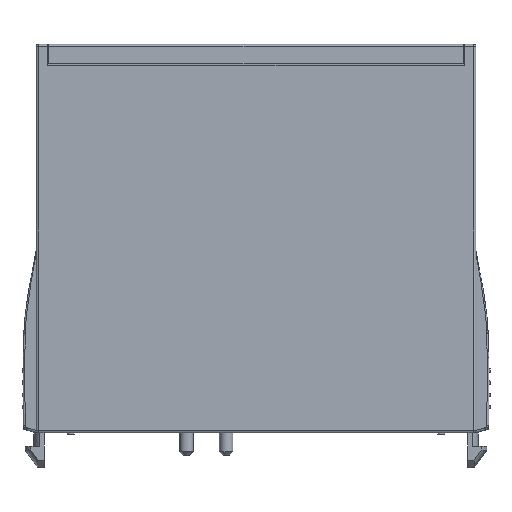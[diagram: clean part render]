
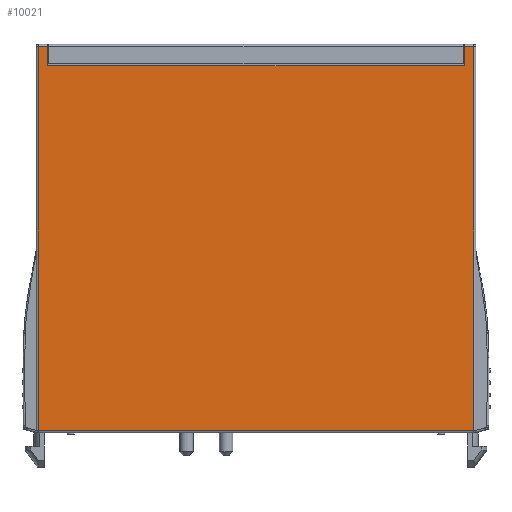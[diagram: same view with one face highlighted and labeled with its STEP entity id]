
A CAD part, front view. The second image highlights one B-rep face of the part: STEP entity #10021.
In plain terms, the highlighted planar face has unit normal (0, -1, 0).
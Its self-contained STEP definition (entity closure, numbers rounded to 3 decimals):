
#725=LINE('',#16059,#1787);
#1060=LINE('',#17298,#2122);
#1108=LINE('',#17440,#2170);
#1109=LINE('',#17444,#2171);
#1110=LINE('',#17446,#2172);
#1111=LINE('',#17448,#2173);
#1112=LINE('',#17449,#2174);
#1113=LINE('',#17450,#2175);
#1787=VECTOR('',#11810,10.);
#2122=VECTOR('',#12421,10.);
#2170=VECTOR('',#12495,10.);
#2171=VECTOR('',#12500,10.);
#2172=VECTOR('',#12501,10.);
#2173=VECTOR('',#12502,10.);
#2174=VECTOR('',#12503,10.);
#2175=VECTOR('',#12504,10.);
#2723=PLANE('',#10665);
#3129=FACE_OUTER_BOUND('',#3733,.T.);
#3733=EDGE_LOOP('',(#8198,#8199,#8200,#8201,#8202,#8203,#8204,#8205));
#4657=VERTEX_POINT('',#16056);
#4658=VERTEX_POINT('',#16058);
#4937=VERTEX_POINT('',#17295);
#4938=VERTEX_POINT('',#17297);
#4985=VERTEX_POINT('',#17439);
#4986=VERTEX_POINT('',#17443);
#4987=VERTEX_POINT('',#17445);
#4988=VERTEX_POINT('',#17447);
#5705=EDGE_CURVE('',#4658,#4657,#725,.F.);
#6115=EDGE_CURVE('',#4937,#4938,#1060,.T.);
#6173=EDGE_CURVE('',#4938,#4985,#1108,.T.);
#6175=EDGE_CURVE('',#4986,#4937,#1109,.T.);
#6176=EDGE_CURVE('',#4987,#4986,#1110,.T.);
#6177=EDGE_CURVE('',#4988,#4987,#1111,.T.);
#6178=EDGE_CURVE('',#4658,#4988,#1112,.T.);
#6179=EDGE_CURVE('',#4985,#4657,#1113,.T.);
#8198=ORIENTED_EDGE('',*,*,#6115,.F.);
#8199=ORIENTED_EDGE('',*,*,#6175,.F.);
#8200=ORIENTED_EDGE('',*,*,#6176,.F.);
#8201=ORIENTED_EDGE('',*,*,#6177,.F.);
#8202=ORIENTED_EDGE('',*,*,#6178,.F.);
#8203=ORIENTED_EDGE('',*,*,#5705,.T.);
#8204=ORIENTED_EDGE('',*,*,#6179,.F.);
#8205=ORIENTED_EDGE('',*,*,#6173,.F.);
#10021=ADVANCED_FACE('',(#3129),#2723,.F.);
#10665=AXIS2_PLACEMENT_3D('',#17442,#12498,#12499);
#11810=DIRECTION('',(0.,0.,-1.));
#12421=DIRECTION('',(-1.,0.,0.));
#12495=DIRECTION('',(0.,0.,1.));
#12498=DIRECTION('center_axis',(0.,1.,0.));
#12499=DIRECTION('ref_axis',(0.,0.,
1.));
#12500=DIRECTION('',(0.,0.,-1.));
#12501=DIRECTION('',(1.,0.,0.));
#12502=DIRECTION('',(0.,0.,1.));
#12503=DIRECTION('',(1.,0.,0.));
#12504=DIRECTION('',(1.,0.,0.));
#16056=CARTESIAN_POINT('',(-29.385,84.31,55.5));
#16058=CARTESIAN_POINT('',(-29.385,84.31,52.8));
#16059=CARTESIAN_POINT('',(-29.385,84.31,39.55));
#17295=CARTESIAN_POINT('',(30.7,84.31,1.35));
#17297=CARTESIAN_POINT('',(-30.7,84.31,1.35));
#17298=CARTESIAN_POINT('',(-15.5,84.31,1.35));
#17439=CARTESIAN_POINT('',(-30.7,84.31,55.5));
#17440=CARTESIAN_POINT('',(-30.7,84.31,39.8));
#17442=CARTESIAN_POINT('Origin',(0.,84.31,
26.8));
#17443=CARTESIAN_POINT('',(30.7,84.31,55.5));
#17444=CARTESIAN_POINT('',(30.7,84.31,13.8));
#17445=CARTESIAN_POINT('',(29.376,84.31,55.5));
#17446=CARTESIAN_POINT('',(15.5,84.31,55.5));
#17447=CARTESIAN_POINT('',(29.376,84.31,52.8));
#17448=CARTESIAN_POINT('',(29.376,84.31,39.55));
#17449=CARTESIAN_POINT('',(31.,84.31,52.8));
#17450=CARTESIAN_POINT('',(-15.5,84.31,55.5));
